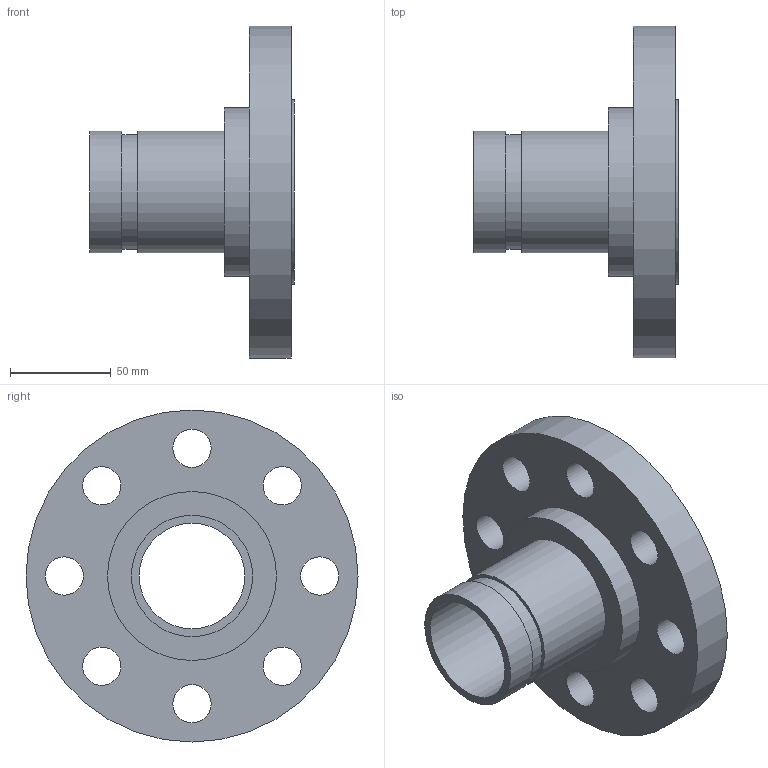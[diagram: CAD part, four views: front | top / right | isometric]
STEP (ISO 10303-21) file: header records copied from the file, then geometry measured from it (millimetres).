
FILE_DESCRIPTION(/* description */ ('VIC FLANGE ADAPTER No 46R','CAx-IF Rec.Pracs.---Representation and Presentation of Product Manufacturing Information (PMI)---4.0---2014-10-13'),/* implementation_level */ '2;1');
FILE_NAME(/* name */ 'C:\Users\kkamble\AppData\Roaming\Autodesk\ApplicationPlugins\Back Up\Victaulic_IPS_Flanged Adapter Nipple_CL 300 RF_No 46R (OGSxFLG)\Victaulic_IPS_Flanged Adapter Nipple_CL 300 RF_No 46R (OGSxFLG)_2 (50).stp',/* time_stamp */ '2020-07-26T22:25:37+06:00',/* author */ ('CONSTRUCTION PIPING SERVICES'),/* organization */ ('Victaulic'),/* preprocessor_version */ 'ST-DEVELOPER v17.2',/* originating_system */ 'Autodesk Inventor 2019',/* authorisation */ '');
FILE_SCHEMA (('AP242_MANAGED_MODEL_BASED_3D_ENGINEERING_MIM_LF { 1 0 10303 442 1 1 4 }'));
Length unit declared in the file: inch
Products named in the file (1): 046R-02.0
Bounding box: 101.6 x 165.1 x 165.1 mm (x, y, z)
Volume: 446263.2 mm3; surface area: 88353.7 mm2
Topology: 1 solids, 1 shells, 22 faces, 59 edges, 44 vertices
Faces by surface type: cylinder 15, plane 7
Full cylindrical faces by diameter (mm): 19.05 x8, 52.502 x1, 57.15 x1, 60.325 x2, 84.074 x1, 91.948 x1, 165.1 x1
Entity records: 849 total; most frequent: DIRECTION 149, CARTESIAN_POINT 126, ORIENTED_EDGE 118, AXIS2_PLACEMENT_3D 67, EDGE_CURVE 59, EDGE_LOOP 45, CIRCLE 44, VERTEX_POINT 44
